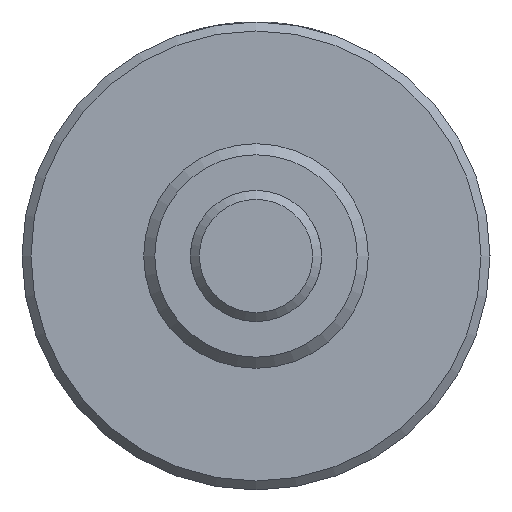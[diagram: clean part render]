
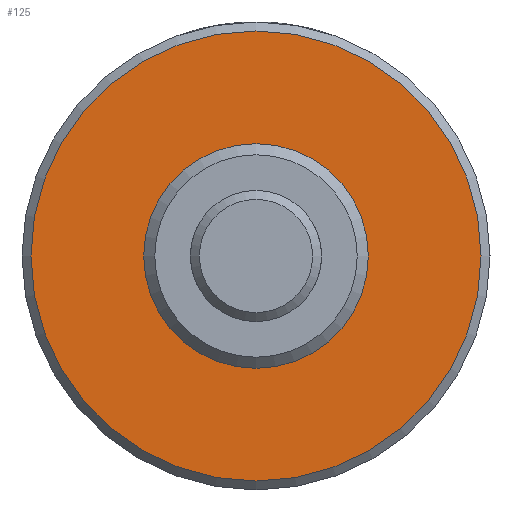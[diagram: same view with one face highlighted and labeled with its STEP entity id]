
A CAD part, left-side view. The second image highlights one B-rep face of the part: STEP entity #125.
In plain terms, the highlighted planar face has unit normal (-1, 0, 0).
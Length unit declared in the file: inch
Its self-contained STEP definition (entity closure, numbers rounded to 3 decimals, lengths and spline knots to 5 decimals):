
#125 = ADVANCED_FACE( '', ( #275, #276 ), #277, .F. );
#275 = FACE_OUTER_BOUND( '', #495, .T. );
#276 = FACE_BOUND( '', #496, .T. );
#277 = PLANE( '', #497 );
#495 = EDGE_LOOP( '', ( #707 ) );
#496 = EDGE_LOOP( '', ( #708 ) );
#497 = AXIS2_PLACEMENT_3D( '', #709, #710, #711 );
#707 = ORIENTED_EDGE( '', *, *, #1062, .F. );
#708 = ORIENTED_EDGE( '', *, *, #1056, .T. );
#709 = CARTESIAN_POINT( '', ( 0.625, 0.375, 0. ) );
#710 = DIRECTION( '', ( 1., 0., 0. ) );
#711 = DIRECTION( '', ( 0., 0., -1. ) );
#1056 = EDGE_CURVE( '', #1181, #1181, #1182, .T. );
#1062 = EDGE_CURVE( '', #1191, #1191, #1192, .T. );
#1181 = VERTEX_POINT( '', #1366 );
#1182 = CIRCLE( '', #1367, 0.375 );
#1191 = VERTEX_POINT( '', #1450 );
#1192 = CIRCLE( '', #1451, 0.7515 );
#1366 = CARTESIAN_POINT( '', ( 0.625, 0., -0.375 ) );
#1367 = AXIS2_PLACEMENT_3D( '', #1726, #1727, #1728 );
#1450 = CARTESIAN_POINT( '', ( 0.625, 0., -0.7515 ) );
#1451 = AXIS2_PLACEMENT_3D( '', #1735, #1736, #1737 );
#1726 = CARTESIAN_POINT( '', ( 0.625, 0., 0. ) );
#1727 = DIRECTION( '', ( 1., 0., 0. ) );
#1728 = DIRECTION( '', ( 0., 0., -1. ) );
#1735 = CARTESIAN_POINT( '', ( 0.625, 0., 0. ) );
#1736 = DIRECTION( '', ( 1., 0., 0. ) );
#1737 = DIRECTION( '', ( 0., 0., -1. ) );
